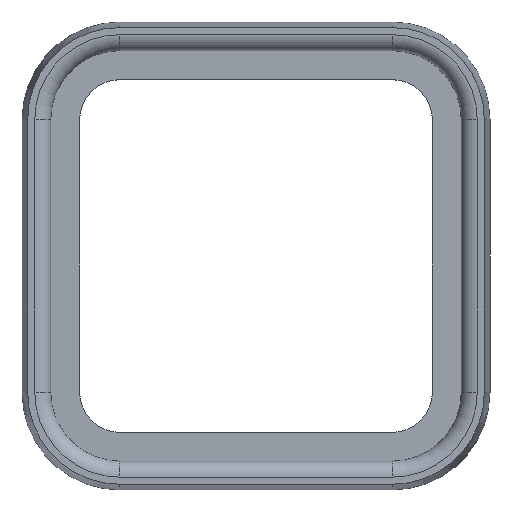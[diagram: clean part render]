
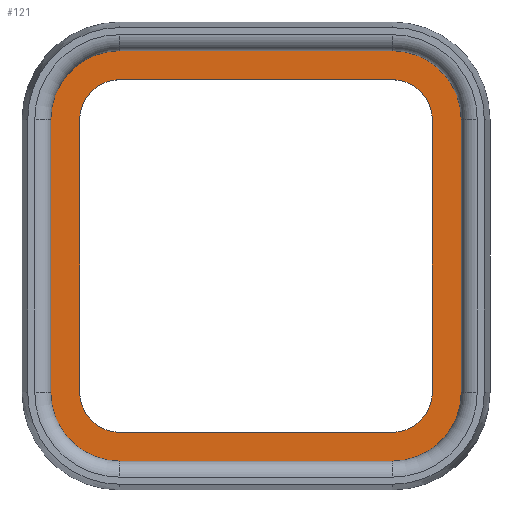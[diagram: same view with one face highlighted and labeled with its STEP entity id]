
A CAD part, top view. The second image highlights one B-rep face of the part: STEP entity #121.
In plain terms, the highlighted planar face has unit normal (0, 0, 1).
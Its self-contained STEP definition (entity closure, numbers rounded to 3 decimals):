
#121 = ADVANCED_FACE( '', ( #251, #252 ), #253, .T. );
#251 = FACE_OUTER_BOUND( '', #390, .T. );
#252 = FACE_BOUND( '', #391, .T. );
#253 = PLANE( '', #392 );
#390 = EDGE_LOOP( '', ( #658, #659, #660, #661, #662, #663, #664, #665 ) );
#391 = EDGE_LOOP( '', ( #666, #667, #668, #669, #670, #671, #672, #673 ) );
#392 = AXIS2_PLACEMENT_3D( '', #674, #675, #676 );
#658 = ORIENTED_EDGE( '', *, *, #924, .F. );
#659 = ORIENTED_EDGE( '', *, *, #841, .F. );
#660 = ORIENTED_EDGE( '', *, *, #912, .F. );
#661 = ORIENTED_EDGE( '', *, *, #922, .F. );
#662 = ORIENTED_EDGE( '', *, *, #898, .F. );
#663 = ORIENTED_EDGE( '', *, *, #856, .F. );
#664 = ORIENTED_EDGE( '', *, *, #837, .F. );
#665 = ORIENTED_EDGE( '', *, *, #822, .F. );
#666 = ORIENTED_EDGE( '', *, *, #870, .T. );
#667 = ORIENTED_EDGE( '', *, *, #932, .T. );
#668 = ORIENTED_EDGE( '', *, *, #890, .T. );
#669 = ORIENTED_EDGE( '', *, *, #865, .T. );
#670 = ORIENTED_EDGE( '', *, *, #834, .T. );
#671 = ORIENTED_EDGE( '', *, *, #933, .T. );
#672 = ORIENTED_EDGE( '', *, *, #929, .T. );
#673 = ORIENTED_EDGE( '', *, *, #934, .T. );
#674 = CARTESIAN_POINT( '', ( -11., 0., 0. ) );
#675 = DIRECTION( '', ( 0., 0., 1. ) );
#676 = DIRECTION( '', ( 1., 0., 0. ) );
#822 = EDGE_CURVE( '', #969, #970, #971, .T. );
#834 = EDGE_CURVE( '', #992, #990, #993, .T. );
#837 = EDGE_CURVE( '', #970, #996, #997, .T. );
#841 = EDGE_CURVE( '', #1002, #1003, #1004, .T. );
#856 = EDGE_CURVE( '', #996, #1029, #1030, .T. );
#865 = EDGE_CURVE( '', #1043, #992, #1044, .T. );
#870 = EDGE_CURVE( '', #1052, #1050, #1053, .T. );
#890 = EDGE_CURVE( '', #1082, #1043, #1083, .T. );
#898 = EDGE_CURVE( '', #1029, #1094, #1095, .T. );
#912 = EDGE_CURVE( '', #1112, #1002, #1113, .T. );
#922 = EDGE_CURVE( '', #1094, #1112, #1124, .T. );
#924 = EDGE_CURVE( '', #1003, #969, #1126, .T. );
#929 = EDGE_CURVE( '', #1134, #1132, #1135, .T. );
#932 = EDGE_CURVE( '', #1050, #1082, #1138, .T. );
#933 = EDGE_CURVE( '', #990, #1134, #1139, .T. );
#934 = EDGE_CURVE( '', #1132, #1052, #1140, .T. );
#969 = VERTEX_POINT( '', #1180 );
#970 = VERTEX_POINT( '', #1181 );
#971 = CIRCLE( '', #1182, 4.5 );
#990 = VERTEX_POINT( '', #1203 );
#992 = VERTEX_POINT( '', #1206 );
#993 = CIRCLE( '', #1207, 2.5 );
#996 = VERTEX_POINT( '', #1211 );
#997 = LINE( '', #1212, #1213 );
#1002 = VERTEX_POINT( '', #1220 );
#1003 = VERTEX_POINT( '', #1221 );
#1004 = CIRCLE( '', #1222, 4.5 );
#1029 = VERTEX_POINT( '', #1255 );
#1030 = CIRCLE( '', #1256, 4.5 );
#1043 = VERTEX_POINT( '', #1271 );
#1044 = LINE( '', #1272, #1273 );
#1050 = VERTEX_POINT( '', #1280 );
#1052 = VERTEX_POINT( '', #1283 );
#1053 = CIRCLE( '', #1284, 2.5 );
#1082 = VERTEX_POINT( '', #1319 );
#1083 = CIRCLE( '', #1320, 2.5 );
#1094 = VERTEX_POINT( '', #1334 );
#1095 = LINE( '', #1335, #1336 );
#1112 = VERTEX_POINT( '', #1357 );
#1113 = LINE( '', #1358, #1359 );
#1124 = CIRCLE( '', #1375, 4.5 );
#1126 = LINE( '', #1377, #1378 );
#1132 = VERTEX_POINT( '', #1385 );
#1134 = VERTEX_POINT( '', #1388 );
#1135 = CIRCLE( '', #1389, 2.5 );
#1138 = LINE( '', #1393, #1394 );
#1139 = LINE( '', #1395, #1396 );
#1140 = LINE( '', #1397, #1398 );
#1180 = CARTESIAN_POINT( '', ( -13., 8.5, 0. ) );
#1181 = CARTESIAN_POINT( '', ( -8.5, 13., 0. ) );
#1182 = AXIS2_PLACEMENT_3D( '', #1446, #1447, #1448 );
#1203 = CARTESIAN_POINT( '', ( 11., 8.5, 0. ) );
#1206 = CARTESIAN_POINT( '', ( 8.5, 11., 0. ) );
#1207 = AXIS2_PLACEMENT_3D( '', #1470, #1471, #1472 );
#1211 = CARTESIAN_POINT( '', ( 8.5, 13., 0. ) );
#1212 = CARTESIAN_POINT( '', ( -8.5, 13., 0. ) );
#1213 = VECTOR( '', #1474, 1000. );
#1220 = CARTESIAN_POINT( '', ( -8.5, -13., 0. ) );
#1221 = CARTESIAN_POINT( '', ( -13., -8.5, 0. ) );
#1222 = AXIS2_PLACEMENT_3D( '', #1477, #1478, #1479 );
#1255 = CARTESIAN_POINT( '', ( 13., 8.5, 0. ) );
#1256 = AXIS2_PLACEMENT_3D( '', #1497, #1498, #1499 );
#1271 = CARTESIAN_POINT( '', ( -8.5, 11., 0. ) );
#1272 = CARTESIAN_POINT( '', ( -8.5, 11., 0. ) );
#1273 = VECTOR( '', #1514, 1000. );
#1280 = CARTESIAN_POINT( '', ( -11., -8.5, 0. ) );
#1283 = CARTESIAN_POINT( '', ( -8.5, -11., 0. ) );
#1284 = AXIS2_PLACEMENT_3D( '', #1520, #1521, #1522 );
#1319 = CARTESIAN_POINT( '', ( -11., 8.5, 0. ) );
#1320 = AXIS2_PLACEMENT_3D( '', #1553, #1554, #1555 );
#1334 = CARTESIAN_POINT( '', ( 13., -8.5, 0. ) );
#1335 = CARTESIAN_POINT( '', ( 13., 8.5, 0. ) );
#1336 = VECTOR( '', #1565, 1000. );
#1357 = CARTESIAN_POINT( '', ( 8.5, -13., 0. ) );
#1358 = CARTESIAN_POINT( '', ( 8.5, -13., 0. ) );
#1359 = VECTOR( '', #1585, 1000. );
#1375 = AXIS2_PLACEMENT_3D( '', #1594, #1595, #1596 );
#1377 = CARTESIAN_POINT( '', ( -13., 0., 0. ) );
#1378 = VECTOR( '', #1597, 1000. );
#1385 = CARTESIAN_POINT( '', ( 8.5, -11., 0. ) );
#1388 = CARTESIAN_POINT( '', ( 11., -8.5, 0. ) );
#1389 = AXIS2_PLACEMENT_3D( '', #1603, #1604, #1605 );
#1393 = CARTESIAN_POINT( '', ( -11., 0., 0. ) );
#1394 = VECTOR( '', #1607, 1000. );
#1395 = CARTESIAN_POINT( '', ( 11., 8.5, 0. ) );
#1396 = VECTOR( '', #1608, 1000. );
#1397 = CARTESIAN_POINT( '', ( 8.5, -11., 0. ) );
#1398 = VECTOR( '', #1609, 1000. );
#1446 = CARTESIAN_POINT( '', ( -8.5, 8.5, 0. ) );
#1447 = DIRECTION( '', ( 0., 0., -1. ) );
#1448 = DIRECTION( '', ( -1., 0., 0. ) );
#1470 = CARTESIAN_POINT( '', ( 8.5, 8.5, 0. ) );
#1471 = DIRECTION( '', ( 0., 0., -1. ) );
#1472 = DIRECTION( '', ( 0., 1., 0. ) );
#1474 = DIRECTION( '', ( 1., 0., 0. ) );
#1477 = CARTESIAN_POINT( '', ( -8.5, -8.5, 0. ) );
#1478 = DIRECTION( '', ( 0., 0., -1. ) );
#1479 = DIRECTION( '', ( 0., -1., 0. ) );
#1497 = CARTESIAN_POINT( '', ( 8.5, 8.5, 0. ) );
#1498 = DIRECTION( '', ( 0., 0., -1. ) );
#1499 = DIRECTION( '', ( 0., 1., 0. ) );
#1514 = DIRECTION( '', ( 1., 0., 0. ) );
#1520 = CARTESIAN_POINT( '', ( -8.5, -8.5, 0. ) );
#1521 = DIRECTION( '', ( 0., 0., -1. ) );
#1522 = DIRECTION( '', ( 0., -1., 0. ) );
#1553 = CARTESIAN_POINT( '', ( -8.5, 8.5, 0. ) );
#1554 = DIRECTION( '', ( 0., 0., -1. ) );
#1555 = DIRECTION( '', ( -1., 0., 0. ) );
#1565 = DIRECTION( '', ( 0., -1., 0. ) );
#1585 = DIRECTION( '', ( -1., 0., 0. ) );
#1594 = CARTESIAN_POINT( '', ( 8.5, -8.5, 0. ) );
#1595 = DIRECTION( '', ( 0., 0., -1. ) );
#1596 = DIRECTION( '', ( 1., 0., 0. ) );
#1597 = DIRECTION( '', ( 0., 1., 0. ) );
#1603 = CARTESIAN_POINT( '', ( 8.5, -8.5, 0. ) );
#1604 = DIRECTION( '', ( 0., 0., -1. ) );
#1605 = DIRECTION( '', ( 1., 0., 0. ) );
#1607 = DIRECTION( '', ( 0., 1., 0. ) );
#1608 = DIRECTION( '', ( 0., -1., 0. ) );
#1609 = DIRECTION( '', ( -1., 0., 0. ) );
